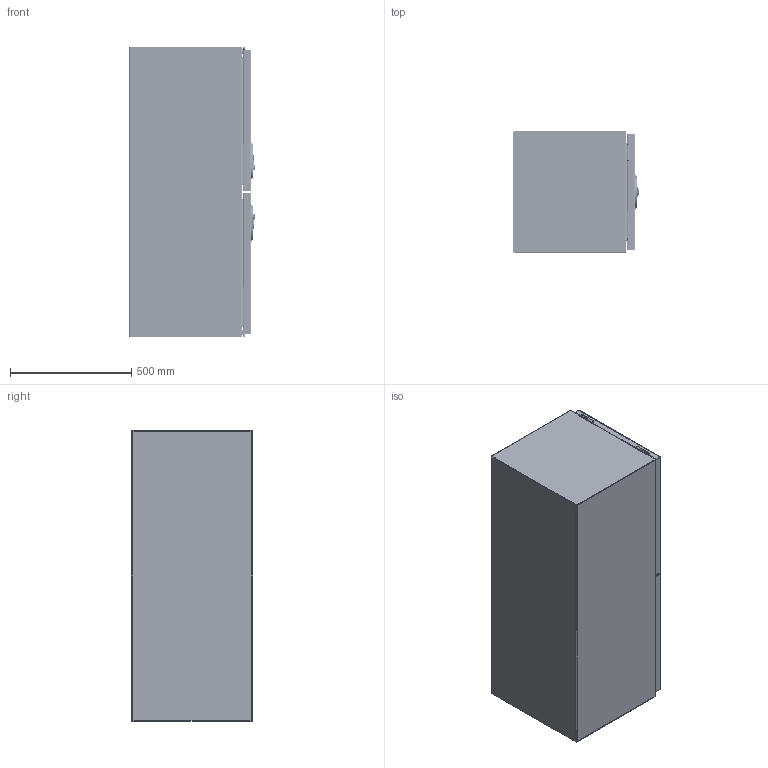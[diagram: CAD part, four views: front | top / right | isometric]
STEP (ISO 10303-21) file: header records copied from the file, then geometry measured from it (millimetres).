
FILE_DESCRIPTION (( 'STEP AP203' ), '1' );
FILE_NAME ('001-001-0600 Aluminum ToolBox (Heavy Duty) with S-Steel Double Door L1200xH500xD500.STEP', '2023-09-08T02:04:41', ( '' ), ( '' ), 'SwSTEP 2.0', 'SolidWorks 2021', '' );
FILE_SCHEMA (( 'CONFIG_CONTROL_DESIGN' ));
Length unit declared in the file: millimetre
Products named in the file (26): TA008-1200-P4-LID (S-STEEL)-R - (new door)_Change lock; GLUE; TA008-1200-STEEL SQUARE PLATE; TA008-1200-STEEL RECTANGULAR PLATE_LH; Stainless steel washer to suit M4_B18.22M - Plain washer, 4 mm, narrow; TA008-1200-P3-MIDDLE PLATE (ALU); RUBBER SEAL; Card board Box L1200xH500xD500; Grease nipple M6; TA008-1200-P4-LID (S-STEEL)-L (new door)_Change lock; Domed Allen Head Bolt M4-15mm long_B18.3.4M - 4 x 0.7 x 16 SBHCS --C; 001-001-0600 Aluminum ToolBox (Heavy Duty) with S-Steel Double Door L1200xH500xD500; Ass Barrel hinge Female Part RH (S-STEEL); TA008-1200-STEEL RECTANGULAR PLATE-RH; Barrel hinge Female Part RH; TA008-1200-P1-BODY (ALU); TA008-1200-P2-LEFT (ALU)_MirrorDefault; AC-Rivet 4mm x 8mmL S-Steel Sealed Dome Rivet; Barrel Hinge Female Part (S-Steel) Weld on; Barrel hinge Female Part LH; Ass Barrel hinge Female Part LH (S-STEEL); TA008-1200-P2-LEFT (ALU); T-Latch Modular (Change for Heavy Duty); LABLE; Nyloc Nut M4_DIN EN ISO 7040 - M5 - C; Brass washer M6_Washer ISO 7090 - 6
Assembly tree (59 placements, depth 3):
  GLUE
  Card board Box L1200xH500xD500
  001-001-0600 Aluminum ToolBox (Heavy Duty) with S-Steel Double Door L1200xH500xD500
    TA008-1200-P1-BODY (ALU)
    TA008-1200-P2-LEFT (ALU)
    TA008-1200-P3-MIDDLE PLATE (ALU)
    TA008-1200-P4-LID (S-STEEL)-L (new door)_Change lock
    TA008-1200-P4-LID (S-STEEL)-R - (new door)_Change lock
    TA008-1200-STEEL RECTANGULAR PLATE_LH
    TA008-1200-STEEL RECTANGULAR PLATE-RH
    TA008-1200-STEEL SQUARE PLATE  x2
    Ass Barrel hinge Female Part RH (S-STEEL)  x2
      Barrel hinge Female Part RH
      Barrel Hinge Female Part (S-Steel) Weld on
      Grease nipple M6
      Domed Allen Head Bolt M4-15mm long_B18.3.4M - 4 x 0.7 x 16 SBHCS --C
      Stainless steel washer to suit M4_B18.22M - Plain washer, 4 mm, narrow
      Nyloc Nut M4_DIN EN ISO 7040 - M5 - C
      Brass washer M6_Washer ISO 7090 - 6
    Ass Barrel hinge Female Part LH (S-STEEL)  x2
      Barrel hinge Female Part LH
      Barrel Hinge Female Part (S-Steel) Weld on
      Grease nipple M6
      Domed Allen Head Bolt M4-15mm long_B18.3.4M - 4 x 0.7 x 16 SBHCS --C
      Stainless steel washer to suit M4_B18.22M - Plain washer, 4 mm, narrow
      Nyloc Nut M4_DIN EN ISO 7040 - M5 - C
      Brass washer M6_Washer ISO 7090 - 6
    RUBBER SEAL  x2
    T-Latch Modular (Change for Heavy Duty)  x2
    LABLE
    TA008-1200-P2-LEFT (ALU)_MirrorDefault
    Stainless steel washer to suit M4_B18.22M - Plain washer, 4 mm, narrow  x8
    Domed Allen Head Bolt M4-15mm long_B18.3.4M - 4 x 0.7 x 16 SBHCS --C  x4
    Nyloc Nut M4_DIN EN ISO 7040 - M5 - C  x4
    AC-Rivet 4mm x 8mmL S-Steel Sealed Dome Rivet  x4
Bounding box: 521.03 x 500 x 1200 mm (x, y, z)
Volume: 9098611.4 mm3; surface area: 7160796.5 mm2
Topology: 141 solids, 151 shells, 5163 faces, 12253 edges, 7476 vertices
Faces by surface type: plane 2138, cylinder 1613, bspline 724, cone 434, torus 194, sphere 60
Entity records: 110853 total; most frequent: CARTESIAN_POINT 43820, ORIENTED_EDGE 13650, DIRECTION 12224, EDGE_CURVE 6825, VERTEX_POINT 4240, AXIS2_PLACEMENT_3D 4172, VECTOR 3880, LINE 3880
